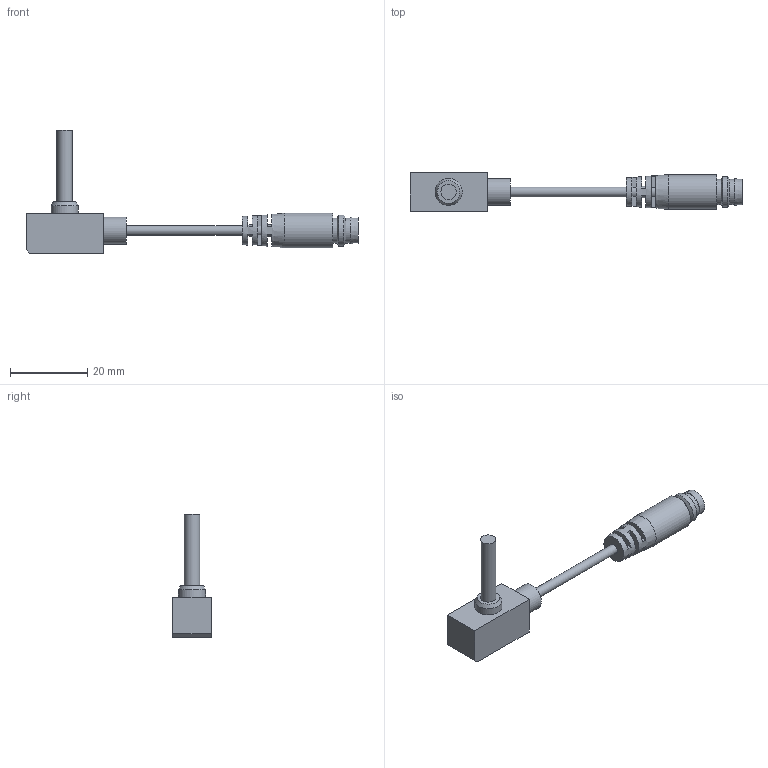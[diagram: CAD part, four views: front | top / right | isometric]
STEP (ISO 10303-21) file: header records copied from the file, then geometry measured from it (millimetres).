
FILE_DESCRIPTION(/* description */ ('MINI VACUOSTATO DIGITALE RACC.INN.d4 CAVO 150mm CONNETT.M8'),/* implementation_level */ '2;1');
FILE_NAME(/* name */ 'C:\PNX_VAULTFOLDER\Area Tecnica\Disegni\VARIE-3D\Componenti\1900 (vuoto)\DS_10_V_B_R4_A_1.stp',/* time_stamp */ '2019-09-13T14:42:52+02:00',/* author */ ('maniean1'),/* organization */ (''),/* preprocessor_version */ 'ST-DEVELOPER v17',/* originating_system */ 'Autodesk Inventor 2019',/* authorisation */ '');
FILE_SCHEMA (('AUTOMOTIVE_DESIGN { 1 0 10303 214 3 1 1 }'));
Length unit declared in the file: millimetre
Products named in the file (3): DS.10.V.B.R4.A.1; DS.10.V.B.R4.E.0; 1590 connettore
Assembly tree (2 placements, depth 2):
  DS.10.V.B.R4.A.1
    DS.10.V.B.R4.E.0
    1590 connettore
Bounding box: 86 x 10 x 32 mm (x, y, z)
Volume: 4183.4 mm3; surface area: 2904.5 mm2
Topology: 2 solids, 2 shells, 75 faces, 172 edges, 117 vertices
Faces by surface type: plane 50, cylinder 20, cone 5
Full cylindrical faces by diameter (mm): 1 x3, 2.5 x1, 4 x1, 5.8 x1, 6.5 x2, 7 x2, 8 x1, 9 x1
Entity records: 2279 total; most frequent: CARTESIAN_POINT 393, DIRECTION 391, ORIENTED_EDGE 344, EDGE_CURVE 172, AXIS2_PLACEMENT_3D 151, VERTEX_POINT 117, EDGE_LOOP 91, LINE 89
